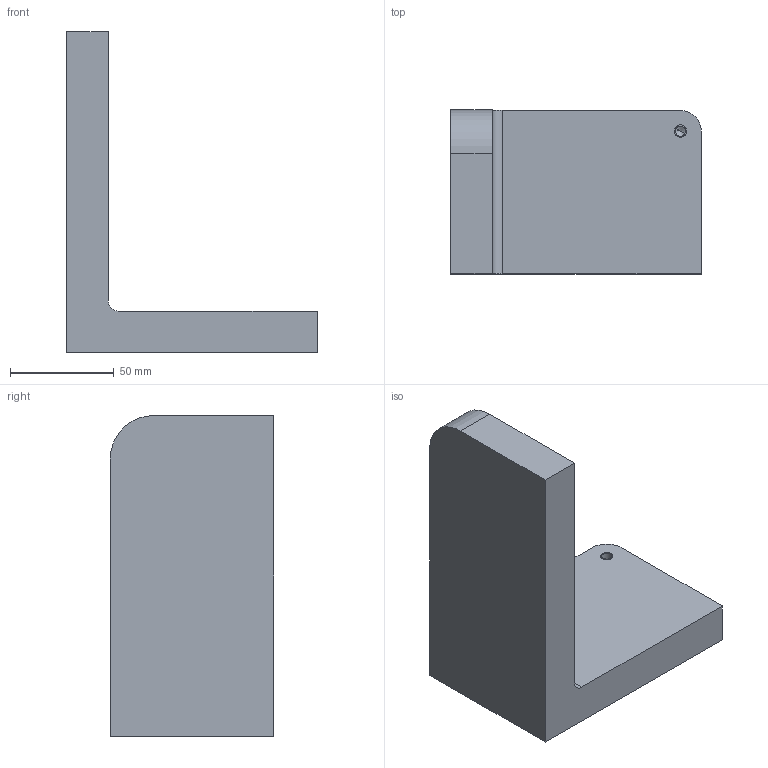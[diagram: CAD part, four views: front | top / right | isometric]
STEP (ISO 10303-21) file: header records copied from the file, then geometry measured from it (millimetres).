
FILE_DESCRIPTION(('CATIA V5 STEP Exchange'),'2;1');
FILE_NAME('C:\_Andres\UNIVERSIDAD\IQS\ASIGNATURAS\DAO\EXF\EXF-16172c\2inicio\Pares_Guanybens_Ej01_v21.stp','2017-03-05T15:11:09+00:00',('none'),('none'),'CATIA Version 5-6 Release 2014 SP1 HF18','CATIA V5 STEP AP203','none');
FILE_SCHEMA(('CONFIG_CONTROL_DESIGN'));
Length unit declared in the file: millimetre
Products named in the file (1): Pares_Guanybens_Ej01_v21
Bounding box: 121 x 79 x 155 mm (x, y, z)
Volume: 402269 mm3; surface area: 53667.2 mm2
Topology: 1 solids, 2 shells, 17 faces, 43 edges, 27 vertices
Faces by surface type: plane 8, cylinder 7, cone 2
Entity records: 513 total; most frequent: CARTESIAN_POINT 83, ORIENTED_EDGE 78, DIRECTION 69, EDGE_CURVE 41, AXIS2_PLACEMENT_3D 29, VECTOR 27, LINE 27, VERTEX_POINT 27
